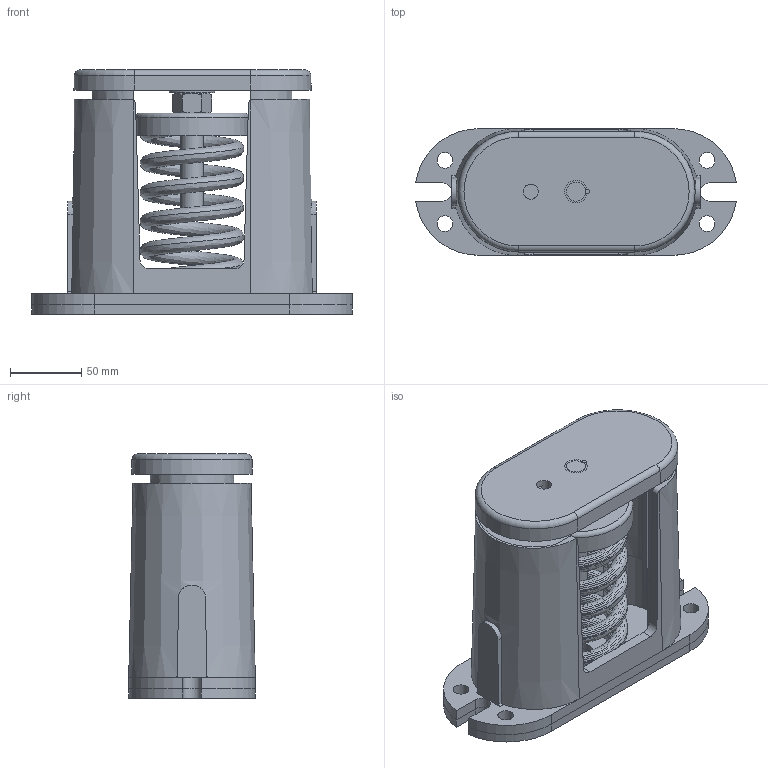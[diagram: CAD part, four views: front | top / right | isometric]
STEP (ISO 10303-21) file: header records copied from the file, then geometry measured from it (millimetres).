
FILE_DESCRIPTION(/* description */ (''),/* implementation_level */ '2;1');
FILE_NAME(/* name */ 'C:\001_Work\Designs\C MOUNTS\CI-C, C2\CI-C2-1870.stp',/* time_stamp */ '2015-12-07T12:51:09-05:00',/* author */ ('rramoutar'),/* organization */ ('Mason Industries Inc.'),/* preprocessor_version */ 'ST-DEVELOPER v15.6',/* originating_system */ 'Autodesk Inventor 2015',/* authorisation */ '');
FILE_SCHEMA (('CONFIG_CONTROL_DESIGN'));
Length unit declared in the file: inch
Products named in the file (1): CI-C2-1870
Bounding box: 225.43 x 88.9 x 171.45 mm (x, y, z)
Volume: 875970.8 mm3; surface area: 292367.5 mm2
Topology: 1 solids, 2 shells, 217 faces, 581 edges, 374 vertices
Faces by surface type: plane 108, cylinder 59, cone 24, bspline 22, torus 4
Full cylindrical faces by diameter (mm): 10.592 x1, 11.112 x8, 15.875 x1, 16.669 x1, 25.4 x2, 31.75 x1, 73.819 x1, 79.894 x1
Entity records: 16641 total; most frequent: CARTESIAN_POINT 11145, ORIENTED_EDGE 1112, DIRECTION 1047, EDGE_CURVE 556, AXIS2_PLACEMENT_3D 395, VERTEX_POINT 370, EDGE_LOOP 264, LINE 257
